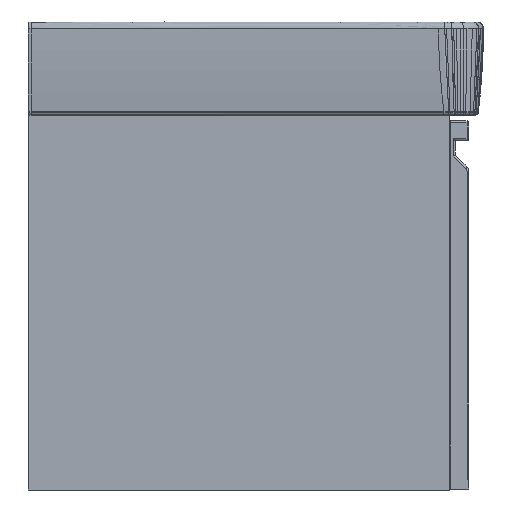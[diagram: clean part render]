
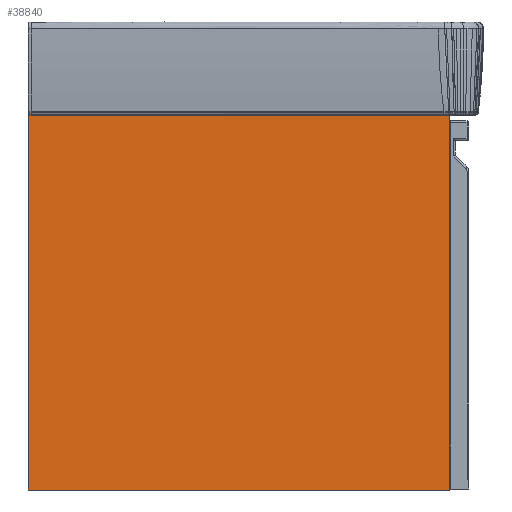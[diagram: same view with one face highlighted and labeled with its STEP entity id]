
A CAD part, left-side view. The second image highlights one B-rep face of the part: STEP entity #38840.
In plain terms, the highlighted planar face has unit normal (-1, 0, 0).
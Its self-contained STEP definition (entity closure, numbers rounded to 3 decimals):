
#3220=PLANE('',#43393);
#4709=FACE_OUTER_BOUND('',#6407,.T.);
#6407=EDGE_LOOP('',(#31700,#31701,#31702,#31703));
#7839=LINE('',#236994,#9977);
#7840=LINE('',#236997,#9978);
#7841=LINE('',#236999,#9979);
#7842=LINE('',#237000,#9980);
#9977=VECTOR('',#47955,430.);
#9978=VECTOR('',#47958,387.);
#9979=VECTOR('',#47959,430.);
#9980=VECTOR('',#47960,387.);
#18795=VERTEX_POINT('',#236987);
#18798=VERTEX_POINT('',#236992);
#18799=VERTEX_POINT('',#236996);
#18800=VERTEX_POINT('',#236998);
#24914=EDGE_CURVE('',#18798,#18795,#7839,.T.);
#24915=EDGE_CURVE('',#18799,#18798,#7840,.T.);
#24916=EDGE_CURVE('',#18800,#18799,#7841,.T.);
#24917=EDGE_CURVE('',#18800,#18795,#7842,.T.);
#31700=ORIENTED_EDGE('',*,*,#24914,.F.);
#31701=ORIENTED_EDGE('',*,*,#24915,.F.);
#31702=ORIENTED_EDGE('',*,*,#24916,.F.);
#31703=ORIENTED_EDGE('',*,*,#24917,.T.);
#38840=ADVANCED_FACE('',(#4709),#3220,.T.);
#43393=AXIS2_PLACEMENT_3D('',#236995,#47956,#47957);
#47955=DIRECTION('',(0.,-1.,0.));
#47956=DIRECTION('center_axis',(-1.,0.,0.));
#47957=DIRECTION('ref_axis',(0.,0.,1.));
#47958=DIRECTION('',(0.,0.,1.));
#47959=DIRECTION('',(0.,1.,0.));
#47960=DIRECTION('',(0.,0.,1.));
#236987=CARTESIAN_POINT('',(-7815.326,-10833.817,-1478.291));
#236992=CARTESIAN_POINT('',(-7815.326,-10403.817,-1478.291));
#236994=CARTESIAN_POINT('',(-7815.326,-10403.817,-1478.291));
#236995=CARTESIAN_POINT('Origin',(-7815.326,-10403.817,-1865.291));
#236996=CARTESIAN_POINT('',(-7815.326,-10403.817,-1865.291));
#236997=CARTESIAN_POINT('',(-7815.326,-10403.817,-1865.291));
#236998=CARTESIAN_POINT('',(-7815.326,-10833.817,-1865.291));
#236999=CARTESIAN_POINT('',(-7815.326,-10833.817,-1865.291));
#237000=CARTESIAN_POINT('',(-7815.326,-10833.817,-1865.291));
